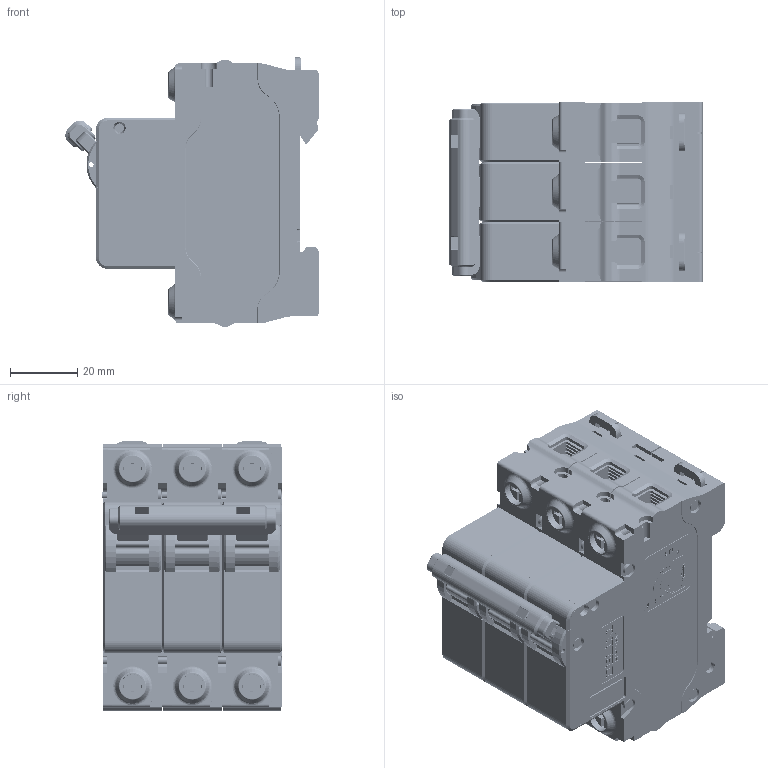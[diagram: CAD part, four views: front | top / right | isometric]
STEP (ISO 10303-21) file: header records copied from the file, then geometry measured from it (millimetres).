
FILE_DESCRIPTION((''),'2;1');
FILE_NAME('2256020800_ASM_SW0001','2019-07-17T',('xiao.wang'),(''),'PRO/ENGINEER BY PARAMETRIC TECHNOLOGY CORPORATION, 2015440','PRO/ENGINEER BY PARAMETRIC TECHNOLOGY CORPORATION, 2015440','');
FILE_SCHEMA(('CONFIG_CONTROL_DESIGN'));
Products named in the file (1): 2256020800_ASM_SW0001
Bounding box: 75.06 x 53.25 x 79.8 mm (x, y, z)
Volume: 197584.2 mm3; surface area: 68717.2 mm2
Topology: 1 solids, 7 shells, 8598 faces, 24121 edges, 15830 vertices
Faces by surface type: plane 5838, cylinder 1497, extrusion 775, cone 302, torus 99, bspline 45, sphere 42
Entity records: 283011 total; most frequent: CARTESIAN_POINT 62411, ORIENTED_EDGE 48154, DIRECTION 41860, EDGE_CURVE 24077, VECTOR 18898, LINE 18123, VERTEX_POINT 15830, AXIS2_PLACEMENT_3D 11481
